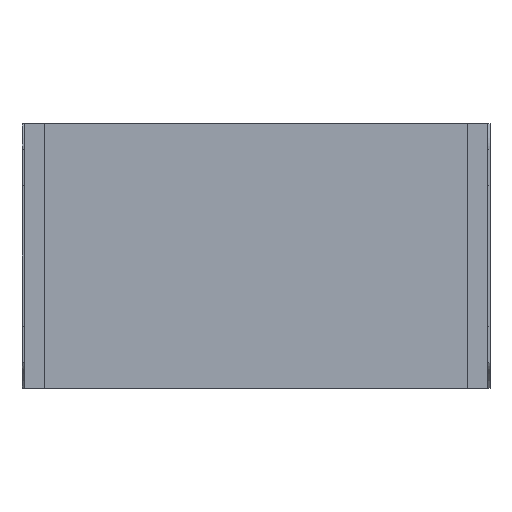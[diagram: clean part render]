
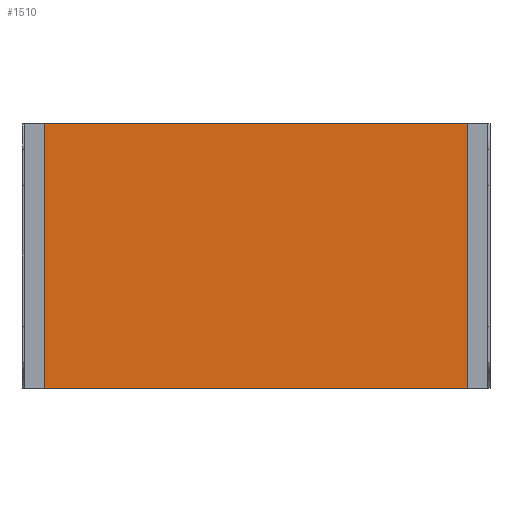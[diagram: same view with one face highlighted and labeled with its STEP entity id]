
A CAD part, front view. The second image highlights one B-rep face of the part: STEP entity #1510.
In plain terms, the highlighted planar face has unit normal (0, -1, 0).
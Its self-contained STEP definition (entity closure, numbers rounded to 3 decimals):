
#114 = LINE ( 'NONE', #1295, #117 ) ;
#117 = VECTOR ( 'NONE', #1291, 1000. ) ;
#141 = FACE_OUTER_BOUND ( 'NONE', #1099, .T. ) ;
#309 = CARTESIAN_POINT ( 'NONE',  ( -228.6, -68., 142.5 ) ) ;
#312 = CARTESIAN_POINT ( 'NONE',  ( -228.6, -68., -142.5 ) ) ;
#313 = CARTESIAN_POINT ( 'NONE',  ( 228.6, -68., -142.5 ) ) ;
#333 = CARTESIAN_POINT ( 'NONE',  ( 228.6, -68., 142.5 ) ) ;
#354 = DIRECTION ( 'NONE',  ( 1., 0., 0. ) ) ;
#357 = CARTESIAN_POINT ( 'NONE',  ( -228.6, -68., 142.5 ) ) ;
#416 = ORIENTED_EDGE ( 'NONE', *, *, #1476, .T. ) ;
#417 = ORIENTED_EDGE ( 'NONE', *, *, #580, .F. ) ;
#418 = ORIENTED_EDGE ( 'NONE', *, *, #591, .F. ) ;
#419 = ORIENTED_EDGE ( 'NONE', *, *, #578, .T. ) ;
#578 = EDGE_CURVE ( 'NONE', #1065, #1062, #698, .T. ) ;
#580 = EDGE_CURVE ( 'NONE', #1052, #1061, #694, .T. ) ;
#591 = EDGE_CURVE ( 'NONE', #1065, #1052, #673, .T. ) ;
#670 = VECTOR ( 'NONE', #354, 1000. ) ;
#673 = LINE ( 'NONE', #357, #670 ) ;
#691 = VECTOR ( 'NONE', #807, 1000. ) ;
#694 = LINE ( 'NONE', #811, #691 ) ;
#695 = VECTOR ( 'NONE', #813, 1000. ) ;
#698 = LINE ( 'NONE', #815, #695 ) ;
#807 = DIRECTION ( 'NONE',  ( 0., 0., -1. ) ) ;
#811 = CARTESIAN_POINT ( 'NONE',  ( 228.6, -68., 142.5 ) ) ;
#813 = DIRECTION ( 'NONE',  ( 0., 0., -1. ) ) ;
#815 = CARTESIAN_POINT ( 'NONE',  ( -228.6, -68., 142.5 ) ) ;
#1052 = VERTEX_POINT ( 'NONE', #333 ) ;
#1061 = VERTEX_POINT ( 'NONE', #313 ) ;
#1062 = VERTEX_POINT ( 'NONE', #312 ) ;
#1065 = VERTEX_POINT ( 'NONE', #309 ) ;
#1099 = EDGE_LOOP ( 'NONE', ( #416, #417, #418, #419 ) ) ;
#1291 = DIRECTION ( 'NONE',  ( 1., 0., 0. ) ) ;
#1295 = CARTESIAN_POINT ( 'NONE',  ( -228.6, -68., -142.5 ) ) ;
#1388 = DIRECTION ( 'NONE',  ( -1., 0., 0. ) ) ;
#1390 = DIRECTION ( 'NONE',  ( 0., 1., 0. ) ) ;
#1396 = CARTESIAN_POINT ( 'NONE',  ( -228.6, -68., 142.5 ) ) ;
#1397 = PLANE ( 'NONE',  #1414 ) ;
#1414 = AXIS2_PLACEMENT_3D ( 'NONE', #1396, #1390, #1388 ) ;
#1476 = EDGE_CURVE ( 'NONE', #1062, #1061, #114, .T. ) ;
#1510 = ADVANCED_FACE ( 'NONE', ( #141 ), #1397, .F. ) ;
